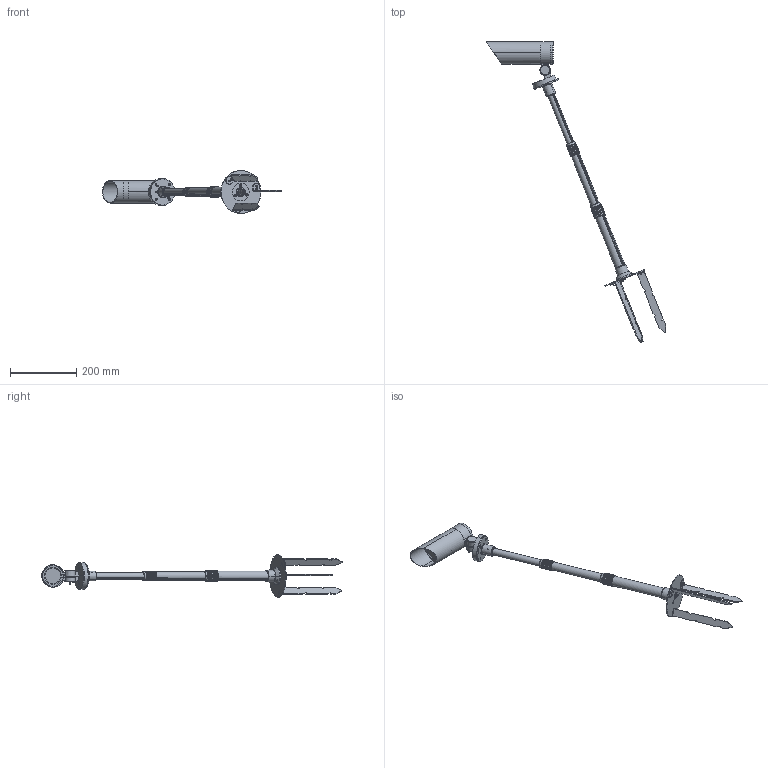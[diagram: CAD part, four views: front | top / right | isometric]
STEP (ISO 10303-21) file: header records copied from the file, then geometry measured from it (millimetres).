
FILE_DESCRIPTION((''),'2;1');
FILE_NAME('ASM0003_ASM_ASM_1_ASM_1_ASM_1_A_ASM','2025-08-01T',('C028'),(''),'CREO PARAMETRIC BY PTC INC, 2014190','CREO PARAMETRIC BY PTC INC, 2014190','');
FILE_SCHEMA(('CONFIG_CONTROL_DESIGN'));
Products named in the file (35): COVER_B_L_2_1_1_1_5_1; PRT0025_1_1_1_1_5_1; PRT0030_1_1_1_5_1; PRT0031_1_1_1_5_1; ASM0005_ASM_ASM_1_ASM_1_ASM_1_A_ASM; PRT0032_1_1_1_5_1; PRT0033_1_1_1_5_1; PRT0034_1_1_1_5_1; ASM0004_ASM_ASM_1_ASM_1_ASM_1_A_ASM; PRT0035_1_1_1_5_1; PRT0036_1_1_1_5_1; 3TO_____1_1_1_5_1; PRT0028_1_1_1_5_1; 512A_1; 0_GB_2_1_1_58_1; PRT0025_1_1_1_19_1; 2023323AA_1_1_1; GUAN-4_2_1_1; GUAN-3_1_1_1; GUAN-2_1_1_1; PRODUCT_259840_3_1_1; _______-2_1_1_1; HU-5170_1_1_1; HU-5171_1_1_1; PRODUCT_202162_ASM_1_ASM_1_ASM__ASM; GUDINGBAN_33_1_1_1; DICHAPIAN_32_1_1_1; M4LUOSI_32_1_1_1; XIN-DICHA_ASM_32_ASM_1_ASM_1_AS_ASM; XIN-DICHA_ASM_ASM_1_ASM_1_ASM_1_ASM; _20A_ASM_1_ASM_1_ASM; PRODUCT_208422_1_1_1; DICHA_ASM-2021_2_27-5128_ASM__1_ASM; ZJJ_2; ASM0003_ASM_ASM_1_ASM_1_ASM_1_A_ASM
Assembly tree (44 placements, depth 6):
  ASM0003_ASM_ASM_1_ASM_1_ASM_1_A_ASM
    COVER_B_L_2_1_1_1_5_1
    PRT0025_1_1_1_1_5_1
    ASM0004_ASM_ASM_1_ASM_1_ASM_1_A_ASM
      ASM0005_ASM_ASM_1_ASM_1_ASM_1_A_ASM
        PRT0030_1_1_1_5_1
        PRT0031_1_1_1_5_1
      PRT0032_1_1_1_5_1
      PRT0033_1_1_1_5_1  x2
      PRT0034_1_1_1_5_1
    PRT0035_1_1_1_5_1
    PRT0036_1_1_1_5_1
    3TO_____1_1_1_5_1
    PRT0028_1_1_1_5_1
    512A_1
    0_GB_2_1_1_58_1
    PRT0025_1_1_1_19_1
    DICHA_ASM-2021_2_27-5128_ASM__1_ASM
      2023323AA_1_1_1
      PRODUCT_202162_ASM_1_ASM_1_ASM__ASM
        GUAN-4_2_1_1
        GUAN-3_1_1_1
        GUAN-2_1_1_1
        PRODUCT_259840_3_1_1
        _______-2_1_1_1
        HU-5170_1_1_1
        HU-5171_1_1_1
      _20A_ASM_1_ASM_1_ASM
        XIN-DICHA_ASM_ASM_1_ASM_1_ASM_1_ASM
          XIN-DICHA_ASM_32_ASM_1_ASM_1_AS_ASM
            GUDINGBAN_33_1_1_1
            DICHAPIAN_32_1_1_1  x3
            M4LUOSI_32_1_1_1  x6
      PRODUCT_208422_1_1_1  x3
    ZJJ_2
Bounding box: 541.7 x 908.69 x 129.74 mm (x, y, z)
Volume: 482742.4 mm3; surface area: 393620.3 mm2
Topology: 35 solids, 35 shells, 1708 faces, 4523 edges, 2970 vertices
Faces by surface type: cylinder 661, plane 576, bspline 219, cone 196, torus 48, revolution 8
Entity records: 74748 total; most frequent: CARTESIAN_POINT 36392, ORIENTED_EDGE 8156, DIRECTION 7669, EDGE_CURVE 4078, AXIS2_PLACEMENT_3D 3014, VERTEX_POINT 2690, EDGE_LOOP 1702, VECTOR 1633
